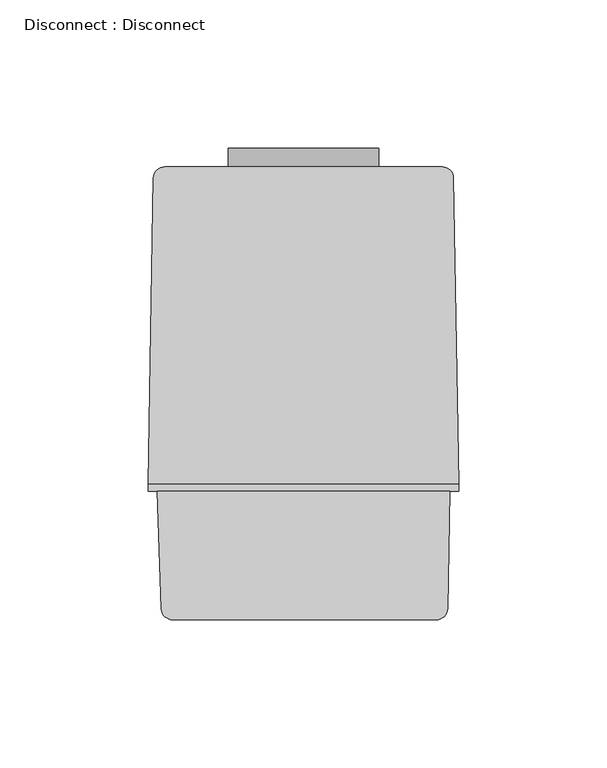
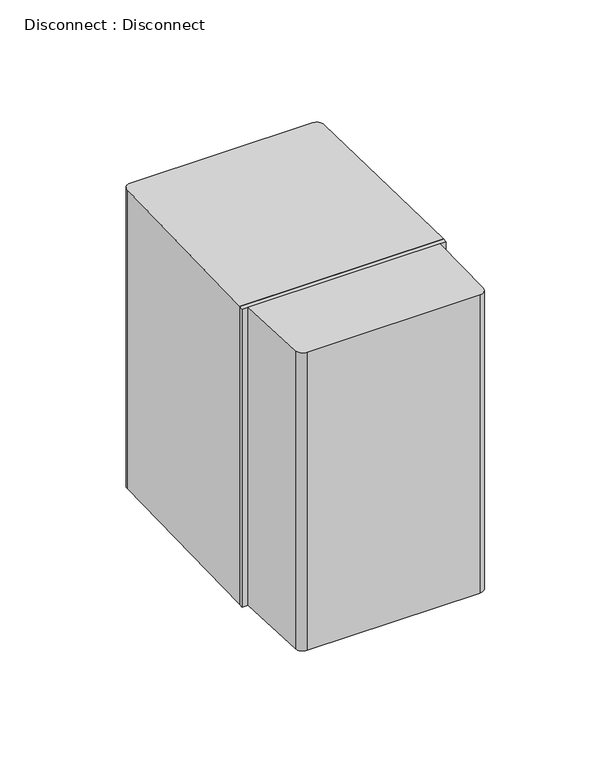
"""IFC4 building model written with IfcOpenShell, lengths in millimetres: proxy geometry, Disconnect : Disconnect."""

from ifc_helpers import new_model, si_unit, point, frame, frame_2d, origin, origin_with_axes, place, context, project, spatial, polyline, circle_curve, trimmed, segment, composite_curve, outline, extrude, source, transform, mapped, element, save


def disconnect_disconnect_c236907a(model_context):
    return source(origin(), model_context, "Body", "SweptSolid", [
        extrude(outline(composite_curve([segment(trimmed(circle_curve(frame_2d((81.026, 0.0)), 25.4), [point((81.026, 25.4))], [point((81.026, -25.4))], False, "CARTESIAN"), True, "CONTINUOUS"), segment(trimmed(circle_curve(frame_2d((81.026, 0.0)), 25.4), [point((81.026, -25.4))], [point((81.026, 25.4))], False, "CARTESIAN"), True, "CONTINUOUS")], self_intersect=False)), frame((0.0, 152.908, 0.0), z_axis=(0.0, 1.0, 0.0), x_axis=(0.0, 0.0, 1.0)), (0.0, 0.0, 1.0), 6.35),
        extrude(outline(composite_curve([segment(polyline([(52.451, 45.974), (-52.451, 45.974), (-50.6498032, 149.1644937)]), True, "CONTINUOUS"), segment(trimmed(circle_curve(frame_2d((-46.8403835, 149.098)), 3.81), [point((-50.6498032, 149.1644937))], [point((-46.8403835, 152.908))], False, "CARTESIAN"), True, "CONTINUOUS"), segment(polyline([(-46.8403835, 152.908), (46.8403835, 152.908)]), True, "CONTINUOUS"), segment(trimmed(circle_curve(frame_2d((46.8403835, 149.098)), 3.81), [point((46.8403835, 152.908))], [point((50.6498032, 149.1644937))], False, "CARTESIAN"), True, "CONTINUOUS"), segment(polyline([(50.6498032, 149.1644937), (52.451, 45.974)]), True, "CONTINUOUS")], self_intersect=False)), origin_with_axes(), (0.0, 0.0, 1.0), 162.052),
        extrude(outline(composite_curve([segment(polyline([(0.1905, 43.434), (49.3395, 43.434), (48.6466999, 3.7435063)]), True, "CONTINUOUS"), segment(trimmed(circle_curve(frame_2d((44.8372801, 3.81)), 3.81), [point((48.6466999, 3.7435063))], [point((44.8372801, 0.0))], False, "CARTESIAN"), True, "CONTINUOUS"), segment(polyline([(44.8372801, 0.0), (-44.1434771, 0.0)]), True, "CONTINUOUS"), segment(trimmed(circle_curve(frame_2d((-44.1434771, 3.81)), 3.81), [point((-44.1434771, 0.0))], [point((-47.9511561, 3.6770329))], False, "CARTESIAN"), True, "CONTINUOUS"), segment(polyline([(-47.9511561, 3.6770329), (-49.3395, 43.434), (0.1905, 43.434)]), True, "CONTINUOUS")], self_intersect=False)), origin_with_axes(), (0.0, 0.0, 1.0), 162.052),
        extrude(outline(polyline([(-52.451, 45.974), (52.451, 45.974), (52.451, 43.434), (-52.451, 43.434), (-52.451, 45.974)])), origin_with_axes(), (0.0, 0.0, 1.0), 162.052),
    ])


if __name__ == "__main__":
    model = new_model("IFC4")
    model_context = context("Model", 3, world=origin())
    ifc_project = project(units=[si_unit("LENGTHUNIT", "METRE", prefix="MILLI")], contexts=[model_context])
    site = spatial("IfcSite", under=ifc_project)
    building = spatial("IfcBuilding", under=site)
    placement = place(None, origin())
    disconnect_disconnect_shape = disconnect_disconnect_c236907a(model_context)
    element("IfcBuildingElementProxy", 1, Name="Disconnect : Disconnect", ObjectType="Disconnect : Disconnect", at=placement, inside=building, context=model_context, shape_type="MappedRepresentation", body=[
        mapped(disconnect_disconnect_shape, transform((0.0, 0.0, 0.0), x_axis=(1.0, 0.0, 0.0), y_axis=(0.0, 1.0, 0.0), z_axis=(0.0, 0.0, 1.0))),
    ])
    save(model, "model.ifc")
